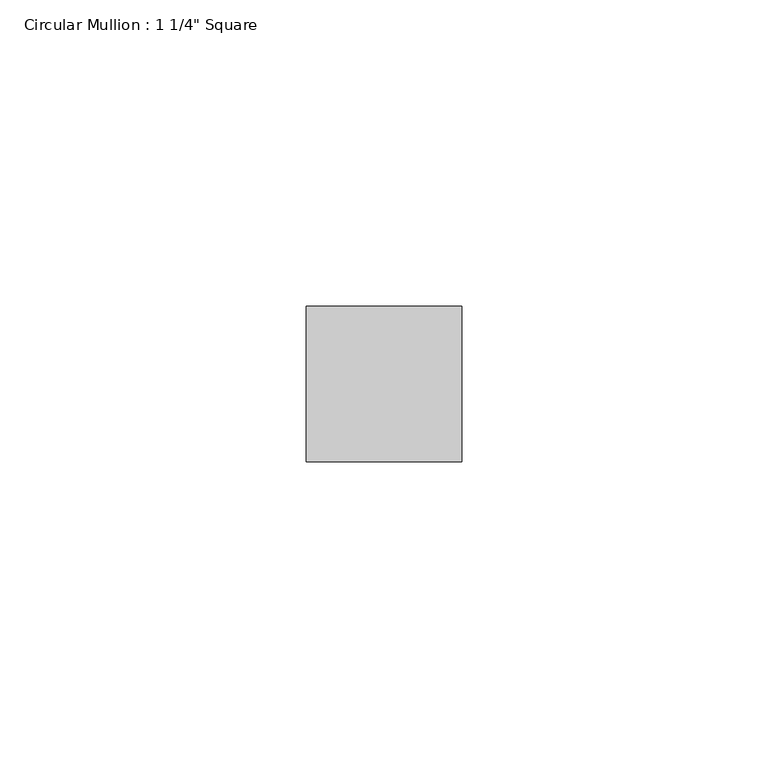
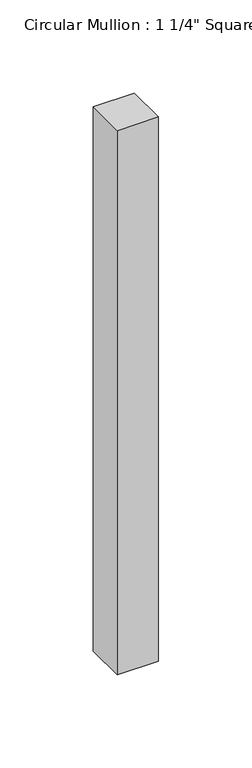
"""IFC4 building model written with IfcOpenShell, lengths in millimetres: member geometry."""

from ifc_helpers import new_model, si_unit, frame, origin, place, context, project, spatial, polyline, outline, extrude, source, transform, mapped, element, save


def member_f92ba716(model_context):
    return source(origin(), model_context, "Body", "SweptSolid", [
        extrude(outline(polyline([(12.7, 12.7), (12.7, -12.7), (-12.7, -12.7), (-12.7, 12.7), (12.7, 12.7)])), frame((0.0, 0.0, -355.6000003), z_axis=(0.0, 0.0, 1.0), x_axis=(1.0, 0.0, 0.0)), (0.0, 0.0, 1.0), 355.6000003),
    ])


if __name__ == "__main__":
    model = new_model("IFC4")
    model_context = context("Model", 3, world=origin())
    ifc_project = project(units=[si_unit("LENGTHUNIT", "METRE", prefix="MILLI")], contexts=[model_context])
    site = spatial("IfcSite", under=ifc_project)
    building = spatial("IfcBuilding", under=site)
    placement = place(None, origin())
    member_shape = member_f92ba716(model_context)
    element("IfcMember", 1, ObjectType="Circular Mullion : 1 1/4\" Square", at=placement, inside=building, context=model_context, shape_type="MappedRepresentation", body=[
        mapped(member_shape, transform((0.0, 0.0, 0.0), x_axis=(1.0, 0.0, 0.0), y_axis=(0.0, 1.0, 0.0), z_axis=(0.0, 0.0, 1.0))),
    ])
    save(model, "model.ifc")
